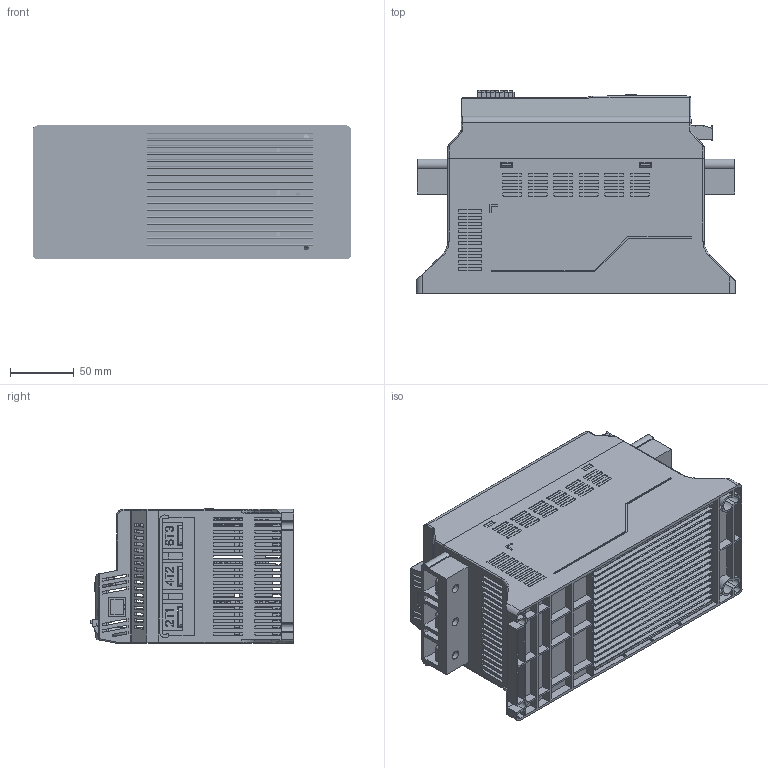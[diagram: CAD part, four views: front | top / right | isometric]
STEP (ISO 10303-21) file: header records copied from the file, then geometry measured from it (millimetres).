
FILE_DESCRIPTION(('FreeCAD Model'),'2;1');
FILE_NAME('Open CASCADE Shape Model','2026-06-17T15:42:13',(''),(''), 'Open CASCADE STEP processor 7.8','FreeCAD','Unknown');
FILE_SCHEMA(('AUTOMOTIVE_DESIGN { 1 0 10303 214 1 1 1 1 }'));
Length unit declared in the file: millimetre
Products named in the file (62): Unnamed; PS20-FRAME-B; 8800-18-37KW-000_ASM_1_ASM; 8800-18-37-0_1; 8800-18-37KW-0002_ASM_1_ASM; 360--18-37-000_1; _110A-000_1; 8800--18-37KW-PCB-1_ASM_1_ASM; 8800--18-37-PCB-1_1; WRV7-024-HP-70A-_1; 8800-70A-1-0001_1; 8800--18-37KW-PCB-1_ASM_1_ASM001; 8800--18-37KW-PCB-1_ASM_1_ASM002; 8800--18-37-0001_1; 8800--18-37-0002_1; CIHUAN-1000-1-_1; 8800--18-37-PCB-200_ASM_1_ASM; 8800--18-37-PCB-2_1; 8800--18-37--128640001_1; _6-6-8-0001_1; _3D5-6-0001_ASM_1_ASM; _1D5-00-0001_1; _3D5-00-0001_1; _3D-00-0001_1; _RJ450001_6; 254-0001_1; 360-18-37-0001_ASM_1_ASM; 360-18-37-000_1-133846; _3-10001_1; 360-0001_1; 8800-508-7P--00_1; _-2540001_1_ASM; _-2540001_1_1; _-2540001_1_2; _-2540001_1_3; _--2-0001_1_ASM; _--2-0001_1_2; _--2-0001_1_3; 24V; GND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
Assembly tree (109 placements, depth 6):
  Unnamed
    PS20-FRAME-B
      8800-18-37KW-000_ASM_1_ASM
        8800-18-37-0_1
        8800-18-37KW-0002_ASM_1_ASM
          360--18-37-000_1
          _110A-000_1  x3
          8800--18-37KW-PCB-1_ASM_1_ASM
            8800--18-37-PCB-1_1
            WRV7-024-HP-70A-_1  x2
            8800-70A-1-0001_1
          8800--18-37KW-PCB-1_ASM_1_ASM001
            8800--18-37-PCB-1_1
            WRV7-024-HP-70A-_1  x2
            8800-70A-1-0001_1
          8800--18-37KW-PCB-1_ASM_1_ASM002
            8800--18-37-PCB-1_1
            WRV7-024-HP-70A-_1  x2
            8800-70A-1-0001_1
          8800--18-37-0001_1  x3
          8800--18-37-0002_1  x3
          CIHUAN-1000-1-_1  x3
        8800--18-37-PCB-200_ASM_1_ASM
          8800--18-37-PCB-2_1
          8800--18-37--128640001_1
          _6-6-8-0001_1  x8
          _3D5-6-0001_ASM_1_ASM
            _1D5-00-0001_1
            _3D5-00-0001_1  x3
            _3D-00-0001_1  x4
          _RJ450001_6
          254-0001_1  x10
          _3D5-00-0001_1
        360-18-37-0001_ASM_1_ASM
          360-18-37-000_1-133846
          _3-10001_1
          360-0001_1  x3
          8800-508-7P--00_1
          _-2540001_1_ASM
            _-2540001_1_1
            _-2540001_1_2
            _-2540001_1_3
        _--2-0001_1_ASM
          _--2-0001_1_2
          _--2-0001_1_3
        24V
        GND
        IN2
        IN3
        A01
        IN1
        A
        B
        Base
        7000-DUANZI-5-2P-_1  x6
        8800-18-37-000_1  x2
        360-18-37-0_1
        360-18-37-000_1-247596
        7000-762-M-2P_ASM_7_ASM
          7000-DUANZI-M-762-1P_AF0_6
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Bounding box: 250 x 159.7 x 105.5 mm (x, y, z)
Volume: 2067456.5 mm3; surface area: 1358933.8 mm2
Topology: 162 solids, 233 shells, 17701 faces, 48219 edges, 31935 vertices
Faces by surface type: plane 14273, cylinder 3282, torus 92, cone 20, sphere 18, bspline 14, extrusion 2
Entity records: 196824 total; most frequent: CARTESIAN_POINT 34765, ORIENTED_EDGE 32267, DIRECTION 31179, EDGE_CURVE 16686, VECTOR 14039, LINE 14037, VERTEX_POINT 11190, AXIS2_PLACEMENT_3D 8570
